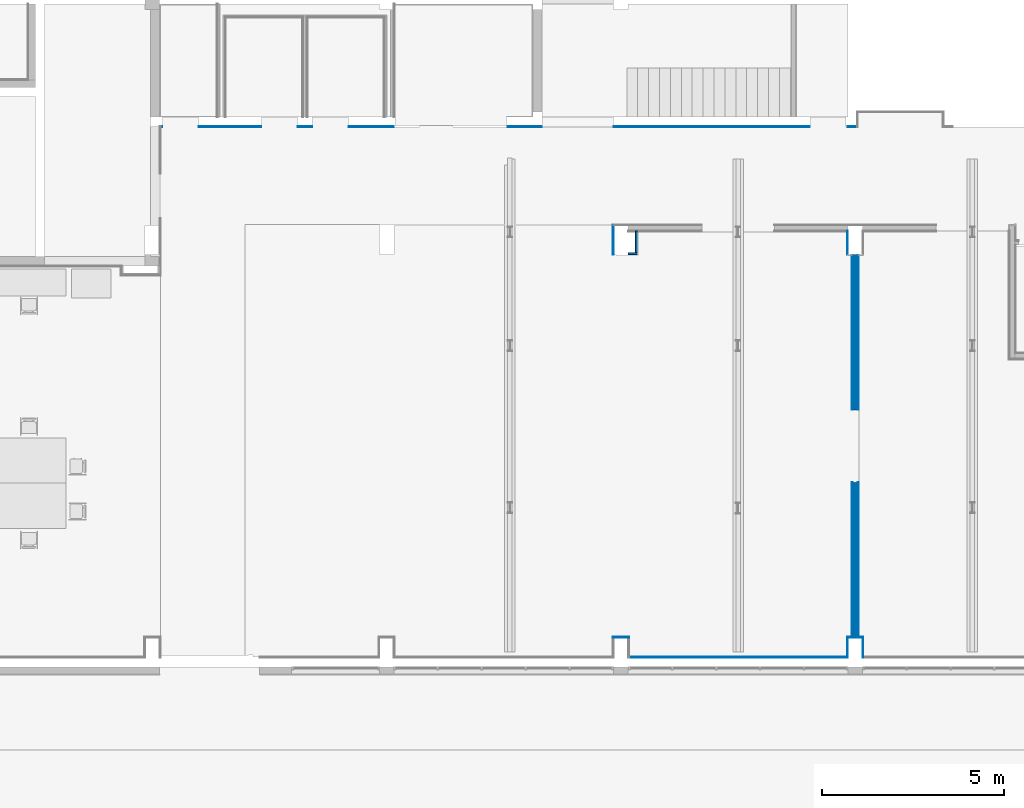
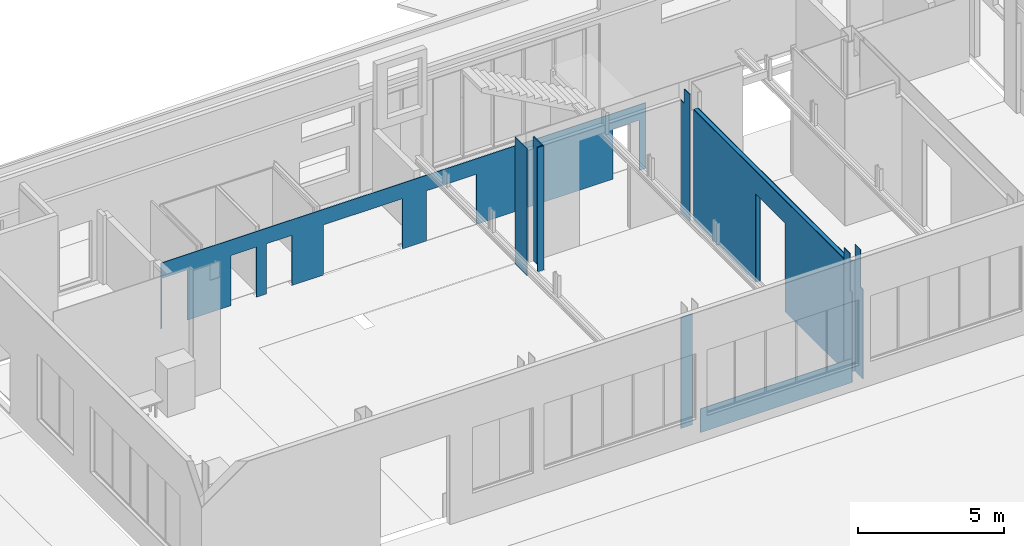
# One storey, part 13 of 27: 13 walls, 9 openings.
"""IFC2X3 building model written with IfcOpenShell, lengths in centimetres."""

from ifc_helpers import new_model, entity, si_unit, converted_unit, derived_unit, direction, frame, frame_2d, origin, origin_2d_with_axis, place, context, subcontext, project, spatial, polyline, rectangle, extrude, clip, bounded_halfspace, material, layer, layer_set, layer_usage, type_object, element, save


model = new_model("IFC2X3")

# Units and contexts
model_context = context("Model", 3, precision=0.001, world=origin(), true_north=direction((6.12303176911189e-17, 1.0)))
body_context = subcontext(model_context, "Body", "Model", "MODEL_VIEW")
ifc_project = project(units=[si_unit("LENGTHUNIT", "METRE", prefix="CENTI"), si_unit("AREAUNIT", "SQUARE_METRE"), si_unit("VOLUMEUNIT", "CUBIC_METRE"), converted_unit("PLANEANGLEUNIT", "DEGREE", entity("IfcRatioMeasure", 0.0174532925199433), si_unit("PLANEANGLEUNIT", "RADIAN"), dimensions=[0, 0, 0, 0, 0, 0, 0]), si_unit("MASSUNIT", "GRAM", prefix="KILO"), derived_unit("MASSDENSITYUNIT", [(si_unit("MASSUNIT", "GRAM", prefix="KILO"), 1), (si_unit("LENGTHUNIT", "METRE"), -3)]), derived_unit("MOMENTOFINERTIAUNIT", [(si_unit("LENGTHUNIT", "METRE"), 4)]), si_unit("TIMEUNIT", "SECOND"), si_unit("FREQUENCYUNIT", "HERTZ"), si_unit("THERMODYNAMICTEMPERATUREUNIT", "DEGREE_CELSIUS"), derived_unit("THERMALTRANSMITTANCEUNIT", [(si_unit("MASSUNIT", "GRAM", prefix="KILO"), 1), (si_unit("THERMODYNAMICTEMPERATUREUNIT", "KELVIN"), -1), (si_unit("TIMEUNIT", "SECOND"), -3)]), derived_unit("VOLUMETRICFLOWRATEUNIT", [(si_unit("LENGTHUNIT", "METRE"), 3), (si_unit("TIMEUNIT", "SECOND"), -1)]), si_unit("ELECTRICCURRENTUNIT", "AMPERE"), si_unit("ELECTRICVOLTAGEUNIT", "VOLT"), si_unit("POWERUNIT", "WATT"), si_unit("FORCEUNIT", "NEWTON", prefix="KILO"), si_unit("ILLUMINANCEUNIT", "LUX"), si_unit("LUMINOUSFLUXUNIT", "LUMEN"), si_unit("LUMINOUSINTENSITYUNIT", "CANDELA"), derived_unit("USERDEFINED", [(si_unit("MASSUNIT", "GRAM", prefix="KILO"), -1), (si_unit("LENGTHUNIT", "METRE"), -2), (si_unit("TIMEUNIT", "SECOND"), 3), (si_unit("LUMINOUSFLUXUNIT", "LUMEN"), 1)]), derived_unit("LINEARVELOCITYUNIT", [(si_unit("LENGTHUNIT", "METRE"), 1), (si_unit("TIMEUNIT", "SECOND"), -1)]), si_unit("PRESSUREUNIT", "PASCAL"), derived_unit("USERDEFINED", [(si_unit("LENGTHUNIT", "METRE"), -2), (si_unit("MASSUNIT", "GRAM", prefix="KILO"), 1), (si_unit("TIMEUNIT", "SECOND"), -2)]), derived_unit("LINEARFORCEUNIT", [(si_unit("MASSUNIT", "GRAM", prefix="KILO"), 1), (si_unit("LENGTHUNIT", "METRE"), 1), (si_unit("TIMEUNIT", "SECOND"), -2), (si_unit("LENGTHUNIT", "METRE"), -1)]), derived_unit("PLANARFORCEUNIT", [(si_unit("MASSUNIT", "GRAM", prefix="KILO"), 1), (si_unit("LENGTHUNIT", "METRE"), 1), (si_unit("TIMEUNIT", "SECOND"), -2), (si_unit("LENGTHUNIT", "METRE"), -2)])], contexts=[model_context])

# Site, building, storey
site_placement = place(None, origin())
site = spatial("IfcSite", under=ifc_project, at=site_placement, Name="Default", CompositionType="ELEMENT")
building_placement = place(site_placement, origin())
building = spatial("IfcBuilding", under=site, at=building_placement, CompositionType="ELEMENT")
storey_placement = place(building_placement, origin())
storey = spatial("IfcBuildingStorey", under=building, at=storey_placement, Name="Poziom 0 A +/-0,00", CompositionType="ELEMENT", Elevation=3.38570427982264e-11)

# Wall, opening
ifc_material_1 = material(Name="Wełna skalna")
ifc_layer_1 = layer(ifc_material_1, 15.0)
ifc_layer_set_1 = layer_set([ifc_layer_1], Name="Ściana podstawowa:Ściana GK rdzeń gr. 15cm")
ifc_layer_usage_1 = layer_usage(ifc_layer_set_1, "AXIS2", "NEGATIVE", 7.5)
wall_type_1 = type_object("IfcWallType", Name="Ściana podstawowa:Ściana GK rdzeń gr. 15cm", PredefinedType="STANDARD", material=ifc_layer_set_1)
wall_1_placement = place(storey_placement, frame((-334.265119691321, 335.127657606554, 0.0), z_axis=(0.0, 0.0, 1.0), x_axis=(0.0, 1.0, 0.0)))
wall_1 = element("IfcWallStandardCase", 1, at=wall_1_placement, inside=storey, type_object=wall_type_1, material=ifc_layer_usage_1, Name="Ściana podstawowa:Ściana GK rdzeń gr. 15cm", ObjectType="Ściana podstawowa:Ściana GK rdzeń gr. 15cm", context=body_context, shape_type="SweptSolid", body=[
    extrude(rectangle(XDim=1054.99979448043, YDim=15.0000000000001, at=frame_2d((527.499897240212, 0.0), x_axis=(-1.0, 0.0))), origin(), (0.0, 0.0, 1.0), 464.999999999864),
])
opening_1_placement = place(wall_1_placement, origin())
element("IfcOpeningElement", 2, at=opening_1_placement, cuts=wall_1, Name="Ściana podstawowa:Ściana GK rdzeń gr. 15cm", ObjectType="Opening", context=body_context, shape_type="SweptSolid", body=[
    extrude(rectangle(XDim=370.0, YDim=200.0, at=origin_2d_with_axis()), frame((527.499897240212, -144.9, 185.0), z_axis=(0.0, 1.0, 0.0), x_axis=(0.0, 0.0, -1.0)), (0.0, 0.0, 1.0), 304.8),
])

# Walls
ifc_layer_2 = layer(ifc_material_1, 5.0)
ifc_layer_set_2 = layer_set([ifc_layer_2], Name="Ściana podstawowa:Ściana GK rdzeń gr. 5cm")
ifc_layer_usage_2 = layer_usage(ifc_layer_set_2, "AXIS2", "NEGATIVE", 2.5)
wall_type_2 = type_object("IfcWallType", Name="Ściana podstawowa:Ściana GK rdzeń gr. 5cm", PredefinedType="STANDARD", material=ifc_layer_set_2)
wall_2_placement = place(storey_placement, frame((-959.265109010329, 1392.62745216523, 0.0)))
element("IfcWallStandardCase", 3, at=wall_2_placement, inside=storey, type_object=wall_type_2, material=ifc_layer_usage_2, Name="Ściana podstawowa:Ściana GK rdzeń gr. 5cm", ObjectType="Ściana podstawowa:Ściana GK rdzeń gr. 5cm", context=body_context, shape_type="SweptSolid", body=[
    extrude(rectangle(XDim=24.9999897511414, YDim=5.00000000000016, at=frame_2d((12.4999948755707, 0.0), x_axis=(-1.0, 0.0))), origin(), (0.0, 0.0, 1.0), 519.999999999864),
])
ifc_layer_usage_3 = layer_usage(ifc_layer_set_2, "AXIS2", "NEGATIVE", 2.5)
wall_3_placement = place(storey_placement, frame((-936.765119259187, 1395.12745216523, 0.0), z_axis=(0.0, 0.0, 1.0), x_axis=(0.0, 1.0, 0.0)))
element("IfcWallStandardCase", 4, at=wall_3_placement, inside=storey, type_object=wall_type_2, material=ifc_layer_usage_3, Name="Ściana podstawowa:Ściana GK rdzeń gr. 5cm", ObjectType="Ściana podstawowa:Ściana GK rdzeń gr. 5cm", context=body_context, shape_type="SweptSolid", body=[
    extrude(rectangle(XDim=59.9999999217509, YDim=4.99999999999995, at=frame_2d((29.9999999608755, 0.0), x_axis=(-1.0, 0.0))), origin(), (0.0, 0.0, 1.0), 519.999999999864),
])

# Wall, opening
ifc_material_2 = material(Name="Tynk gipsowy")
ifc_layer_3 = layer(ifc_material_2, 2.5)
ifc_layer_set_3 = layer_set([ifc_layer_3], Name="Ściana podstawowa:Ściana GK wykonczenie gr. 2,5cm")
ifc_layer_usage_4 = layer_usage(ifc_layer_set_3, "AXIS2", "NEGATIVE", 1.25)
wall_type_3 = type_object("IfcWallType", Name="Ściana podstawowa:Ściana GK wykonczenie gr. 2,5cm", PredefinedType="STANDARD", material=ifc_layer_set_3)
wall_4_placement = place(storey_placement, frame((-343.015119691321, 337.627452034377, 0.0), z_axis=(0.0, 0.0, 1.0), x_axis=(0.0, 1.0, 0.0)))
wall_4 = element("IfcWallStandardCase", 5, at=wall_4_placement, inside=storey, type_object=wall_type_3, material=ifc_layer_usage_4, Name="Ściana podstawowa:Ściana GK wykonczenie gr. 2,5cm", ObjectType="Ściana podstawowa:Ściana GK wykonczenie gr. 2,5cm", context=body_context, shape_type="Clipping", body=[
    clip(extrude(rectangle(XDim=1050.0000000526, YDim=2.49999999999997, at=frame_2d((525.000000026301, 0.0), x_axis=(-1.0, 0.0))), origin(), (0.0, 0.0, 1.0), 464.99999999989), bounded_halfspace(frame((0.0, -1.24999999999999, 465.0), z_axis=(0.0, 0.0, -1.0), x_axis=(1.0, 0.0, 0.0)), True, frame((0.0, -1.24999999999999, 465.0), z_axis=(0.0, 0.0, -1.0), x_axis=(1.0, 0.0, 0.0)), polyline([(0.0, 0.0), (0.0, -2.49999999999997), (1050.0, -2.49999999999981), (1050.0, 0.0), (0.0, 0.0)]))),
])
opening_2_placement = place(wall_4_placement, origin())
element("IfcOpeningElement", 6, at=opening_2_placement, cuts=wall_4, Name="Ściana podstawowa:Ściana GK wykonczenie gr. 2,5cm", ObjectType="Opening", context=body_context, shape_type="SweptSolid", body=[
    extrude(rectangle(XDim=370.0, YDim=200.0, at=origin_2d_with_axis()), frame((525.000102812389, -153.65, 185.0), z_axis=(0.0, 1.0, 0.0), x_axis=(0.0, 0.0, -1.0)), (0.0, 0.0, 1.0), 304.8),
])

ifc_layer_usage_5 = layer_usage(ifc_layer_set_3, "AXIS2", "NEGATIVE", 1.25)
wall_5_placement = place(storey_placement, frame((-325.515119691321, 337.627452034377, 0.0), z_axis=(0.0, 0.0, 1.0), x_axis=(0.0, 1.0, 0.0)))
wall_5 = element("IfcWallStandardCase", 7, at=wall_5_placement, inside=storey, type_object=wall_type_3, material=ifc_layer_usage_5, Name="Ściana podstawowa:Ściana GK wykonczenie gr. 2,5cm", ObjectType="Ściana podstawowa:Ściana GK wykonczenie gr. 2,5cm", context=body_context, shape_type="Clipping", body=[
    clip(extrude(rectangle(XDim=1050.0000000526, YDim=2.49999999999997, at=frame_2d((525.000000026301, 0.0), x_axis=(-1.0, 0.0))), origin(), (0.0, 0.0, 1.0), 464.99999999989), bounded_halfspace(frame((0.0, -1.25000000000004, 465.0), z_axis=(0.0, 0.0, -1.0), x_axis=(1.0, 0.0, 0.0)), True, frame((0.0, -1.25000000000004, 465.0), z_axis=(0.0, 0.0, -1.0), x_axis=(1.0, 0.0, 0.0)), polyline([(0.0, 0.0), (0.0, -2.50000000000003), (1050.0, -2.49999999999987), (1050.0, 0.0), (0.0, 0.0)]))),
])
opening_3_placement = place(wall_5_placement, origin())
element("IfcOpeningElement", 8, at=opening_3_placement, cuts=wall_5, Name="Ściana podstawowa:Ściana GK wykonczenie gr. 2,5cm", ObjectType="Opening", context=body_context, shape_type="SweptSolid", body=[
    extrude(rectangle(XDim=370.0, YDim=200.0, at=origin_2d_with_axis()), frame((525.000102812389, -136.15, 185.0), z_axis=(0.0, 1.0, 0.0), x_axis=(0.0, 0.0, -1.0)), (0.0, 0.0, 1.0), 304.8),
])

# Walls
ifc_layer_4 = layer(ifc_material_2, 2.5)
ifc_layer_set_4 = layer_set([ifc_layer_4], Name="Ściana podstawowa:Tynk wykończenie gr. 2,5cm")
ifc_layer_usage_6 = layer_usage(ifc_layer_set_4, "AXIS2", "NEGATIVE", 1.25)
wall_type_4 = type_object("IfcWallType", Name="Ściana podstawowa:Tynk wykończenie gr. 2,5cm", PredefinedType="STANDARD", material=ifc_layer_set_4)
wall_6_placement = place(storey_placement, frame((-1001.7651196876, 336.37745203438, 0.0)))
element("IfcWallStandardCase", 9, at=wall_6_placement, inside=storey, type_object=wall_type_4, material=ifc_layer_usage_6, Name="Ściana podstawowa:Tynk wykończenie gr. 2,5cm", ObjectType="Ściana podstawowa:Tynk wykończenie gr. 2,5cm", context=body_context, shape_type="SweptSolid", body=[
    extrude(rectangle(XDim=45.0000000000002, YDim=2.49999999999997, at=frame_2d((22.5000000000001, 0.0), x_axis=(-1.0, 0.0))), origin(), (0.0, 0.0, 1.0), 464.999999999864),
])
ifc_layer_usage_7 = layer_usage(ifc_layer_set_4, "AXIS2", "POSITIVE", -1.25)
wall_7_placement = place(storey_placement, frame((-956.765119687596, 281.377499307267, 0.0)))
element("IfcWallStandardCase", 10, at=wall_7_placement, inside=storey, type_object=wall_type_4, material=ifc_layer_usage_7, Name="Ściana podstawowa:Tynk wykończenie gr. 2,5cm", ObjectType="Ściana podstawowa:Tynk wykończenie gr. 2,5cm", context=body_context, shape_type="SweptSolid", body=[
    extrude(rectangle(XDim=599.999885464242, YDim=2.49999999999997, at=frame_2d((299.999942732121, 0.0), x_axis=(-1.0, 0.0))), origin(), (0.0, 0.0, 1.0), 100.0),
])
ifc_layer_usage_8 = layer_usage(ifc_layer_set_4, "AXIS2", "NEGATIVE", 1.25)
wall_8_placement = place(storey_placement, frame((-355.515234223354, 280.127499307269, 0.0), z_axis=(0.0, 0.0, 1.0), x_axis=(0.0, 1.0, 0.0)))
element("IfcWallStandardCase", 11, at=wall_8_placement, inside=storey, type_object=wall_type_4, material=ifc_layer_usage_8, Name="Ściana podstawowa:Tynk wykończenie gr. 2,5cm", ObjectType="Ściana podstawowa:Tynk wykończenie gr. 2,5cm", context=body_context, shape_type="Clipping", body=[
    clip(clip(extrude(rectangle(XDim=55.0001582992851, YDim=2.49999999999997, at=frame_2d((27.5000791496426, 0.0), x_axis=(-1.0, 0.0))), origin(), (0.0, 0.0, 1.0), 529.999999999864), bounded_halfspace(frame((14.99995276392, 1.25000000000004, 375.0), z_axis=(-1.0, 0.0, 0.0), x_axis=(0.0, 0.0, -1.0)), False, frame((14.99995276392, 1.25000000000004, 375.0), z_axis=(-1.0, 0.0, 0.0), x_axis=(0.0, 0.0, -1.0)), polyline([(0.0, 0.0), (0.0, 2.50000000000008), (-155.0, 2.50000000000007), (-155.0, 0.0), (0.0, 0.0)]))), bounded_halfspace(frame((14.99995276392, -1.25000000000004, 375.0), z_axis=(0.0, 0.0, 1.0), x_axis=(-1.0, 0.0, 0.0)), False, frame((14.99995276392, -1.25000000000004, 375.0), z_axis=(0.0, 0.0, 1.0), x_axis=(-1.0, 0.0, 0.0)), polyline([(0.0, 0.0), (0.0, -2.50000000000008), (14.99995276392, -2.49999999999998), (14.99995276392, 0.0), (0.0, 0.0)]))),
])
ifc_layer_usage_9 = layer_usage(ifc_layer_set_4, "AXIS2", "NEGATIVE", 1.25)
wall_9_placement = place(storey_placement, frame((-356.765234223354, 336.377452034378, 0.0)))
element("IfcWallStandardCase", 12, at=wall_9_placement, inside=storey, type_object=wall_type_4, material=ifc_layer_usage_9, Name="Ściana podstawowa:Tynk wykończenie gr. 2,5cm", ObjectType="Ściana podstawowa:Tynk wykończenie gr. 2,5cm", context=body_context, shape_type="SweptSolid", body=[
    extrude(rectangle(XDim=45.0000000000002, YDim=2.49999999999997, at=frame_2d((22.5000000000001, 0.0), x_axis=(-1.0, 0.0))), origin(), (0.0, 0.0, 1.0), 464.999999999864),
])
ifc_layer_usage_10 = layer_usage(ifc_layer_set_4, "AXIS2", "NEGATIVE", 1.25)
wall_10_placement = place(storey_placement, frame((-313.015234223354, 335.127657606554, 0.0), z_axis=(0.0, 0.0, 1.0), x_axis=(0.0, -1.0, 0.0)))
element("IfcWallStandardCase", 13, at=wall_10_placement, inside=storey, type_object=wall_type_4, material=ifc_layer_usage_10, Name="Ściana podstawowa:Tynk wykończenie gr. 2,5cm", ObjectType="Ściana podstawowa:Tynk wykończenie gr. 2,5cm", context=body_context, shape_type="Clipping", body=[
    clip(clip(extrude(rectangle(XDim=55.0001582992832, YDim=2.49999999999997, at=frame_2d((27.5000791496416, -2.33146835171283e-15), x_axis=(-1.0, 0.0))), origin(), (0.0, 0.0, 1.0), 529.999999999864), bounded_halfspace(frame((40.0002055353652, -1.25, 375.0), z_axis=(1.0, 0.0, 0.0), x_axis=(0.0, 0.0, -1.0)), False, frame((40.0002055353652, -1.25, 375.0), z_axis=(1.0, 0.0, 0.0), x_axis=(0.0, 0.0, -1.0)), polyline([(0.0, 0.0), (0.0, 2.50000000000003), (-155.0, 2.50000000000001), (-155.0, 0.0), (0.0, 0.0)]))), bounded_halfspace(frame((40.0002055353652, 1.25000000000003, 375.0)), False, frame((40.0002055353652, 1.25000000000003, 375.0)), polyline([(0.0, 0.0), (0.0, -2.50000000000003), (14.999952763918, -2.50000000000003), (14.999952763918, 0.0), (0.0, 0.0)]))),
])

# Wall, openings
ifc_layer_usage_11 = layer_usage(ifc_layer_set_4, "AXIS2", "POSITIVE", -1.25)
wall_11_placement = place(storey_placement, frame((-329.265111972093, 1741.87745200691, 0.0), z_axis=(0.0, 0.0, 1.0), x_axis=(-1.0, 0.0, 0.0)))
wall_11 = element("IfcWallStandardCase", 14, at=wall_11_placement, inside=storey, type_object=wall_type_4, material=ifc_layer_usage_11, Name="Ściana podstawowa:Tynk wykończenie gr. 2,5cm", ObjectType="Ściana podstawowa:Tynk wykończenie gr. 2,5cm", context=body_context, shape_type="SweptSolid", body=[
    extrude(rectangle(XDim=1917.50000775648, YDim=2.49999999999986, at=frame_2d((958.75000387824, 0.0), x_axis=(-1.0, 0.0))), origin(), (0.0, 0.0, 1.0), 275.000000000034),
])
opening_4_placement = place(wall_11_placement, origin())
element("IfcOpeningElement", 15, at=opening_4_placement, cuts=wall_11, Name="Ściana podstawowa:Tynk wykończenie gr. 2,5cm", ObjectType="Opening", context=body_context, shape_type="SweptSolid", body=[
    extrude(rectangle(XDim=210.0, YDim=313.0, at=frame_2d((0.0, 0.0), x_axis=(0.0, 1.0))), frame((1118.49999702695, -178.650000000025, 105.0), z_axis=(0.0, 1.0, 0.0), x_axis=(1.0, 0.0, 0.0)), (0.0, 0.0, 1.0), 304.8),
])
opening_5_placement = place(wall_11_placement, origin())
element("IfcOpeningElement", 16, at=opening_5_placement, cuts=wall_11, Name="Ściana podstawowa:Tynk wykończenie gr. 2,5cm", ObjectType="Opening", context=body_context, shape_type="SweptSolid", body=[
    extrude(rectangle(XDim=210.0, YDim=100.0, at=frame_2d((0.0, 0.0), x_axis=(0.0, 1.0))), frame((1589.9999636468, -178.650000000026, 105.0), z_axis=(0.0, 1.0, 0.0), x_axis=(1.0, 0.0, 0.0)), (0.0, 0.0, 1.0), 304.8),
])
opening_6_placement = place(wall_11_placement, origin())
element("IfcOpeningElement", 17, at=opening_6_placement, cuts=wall_11, Name="Ściana podstawowa:Tynk wykończenie gr. 2,5cm", ObjectType="Opening", context=body_context, shape_type="SweptSolid", body=[
    extrude(rectangle(XDim=210.0, YDim=99.9999999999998, at=frame_2d((1.10134124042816e-13, 0.0), x_axis=(0.0, 1.0))), frame((1449.99996376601, -178.650000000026, 105.0), z_axis=(0.0, 1.0, 0.0), x_axis=(1.0, 0.0, 0.0)), (0.0, 0.0, 1.0), 304.8),
])
opening_7_placement = place(wall_11_placement, origin())
element("IfcOpeningElement", 18, at=opening_7_placement, cuts=wall_11, Name="Ściana podstawowa:Tynk wykończenie gr. 2,5cm", ObjectType="Opening", context=body_context, shape_type="SweptSolid", body=[
    extrude(rectangle(XDim=210.0, YDim=100.0, at=frame_2d((0.0, 0.0), x_axis=(0.0, 1.0))), frame((1862.49998093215, -178.650000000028, 105.0), z_axis=(0.0, 1.0, 0.0), x_axis=(1.0, 0.0, 0.0)), (0.0, 0.0, 1.0), 304.8),
])
opening_8_placement = place(wall_11_placement, origin())
element("IfcOpeningElement", 19, at=opening_8_placement, cuts=wall_11, Name="Ściana podstawowa:Tynk wykończenie gr. 2,5cm", ObjectType="Opening", context=body_context, shape_type="SweptSolid", body=[
    extrude(rectangle(XDim=210.0, YDim=197.5, at=frame_2d((1.06581410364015e-13, 0.0), x_axis=(0.0, 1.0))), frame((768.749976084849, -178.64999994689, 105.0), z_axis=(0.0, 1.0, 0.0), x_axis=(1.0, 0.0, 0.0)), (0.0, 0.0, 1.0), 304.8),
])
opening_9_placement = place(wall_11_placement, origin())
element("IfcOpeningElement", 20, at=opening_9_placement, cuts=wall_11, Name="Ściana podstawowa:Tynk wykończenie gr. 2,5cm", ObjectType="Opening", context=body_context, shape_type="SweptSolid", body=[
    extrude(rectangle(XDim=210.0, YDim=105.0, at=frame_2d((2.48689957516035e-14, 0.0), x_axis=(0.0, 1.0))), frame((77.4999796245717, -178.649999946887, 105.0), z_axis=(0.0, 1.0, 0.0), x_axis=(1.0, 0.0, 0.0)), (0.0, 0.0, 1.0), 304.8),
])

# Walls
ifc_layer_usage_12 = layer_usage(ifc_layer_set_4, "AXIS2", "POSITIVE", -1.25)
wall_12_placement = place(storey_placement, frame((-1000.5151196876, 1390.12745208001, 0.0), z_axis=(0.0, 0.0, 1.0), x_axis=(0.0, 1.0, 0.0)))
element("IfcWallStandardCase", 21, at=wall_12_placement, inside=storey, type_object=wall_type_4, material=ifc_layer_usage_12, Name="Ściana podstawowa:Tynk wykończenie gr. 2,5cm", ObjectType="Ściana podstawowa:Tynk wykończenie gr. 2,5cm", context=body_context, shape_type="SweptSolid", body=[
    extrude(rectangle(XDim=82.5000000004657, YDim=2.49999999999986, at=frame_2d((41.2500000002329, 0.0), x_axis=(-1.0, 0.0))), origin(), (0.0, 0.0, 1.0), 529.999999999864),
])
ifc_layer_usage_13 = layer_usage(ifc_layer_set_4, "AXIS2", "POSITIVE", -1.25)
wall_13_placement = place(storey_placement, frame((-355.515109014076, 1390.12745208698, 0.0), z_axis=(0.0, 0.0, 1.0), x_axis=(0.0, 1.0, 0.0)))
element("IfcWallStandardCase", 22, at=wall_13_placement, inside=storey, type_object=wall_type_4, material=ifc_layer_usage_13, Name="Ściana podstawowa:Tynk wykończenie gr. 2,5cm", ObjectType="Ściana podstawowa:Tynk wykończenie gr. 2,5cm", context=body_context, shape_type="Clipping", body=[
    clip(clip(extrude(rectangle(XDim=65.0000000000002, YDim=2.49999999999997, at=frame_2d((32.5000000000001, 4.10782519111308e-15), x_axis=(-1.0, 0.0))), origin(), (0.0, 0.0, 1.0), 529.999999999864), bounded_halfspace(frame((40.0, 1.25, 470.0), z_axis=(0.0, 0.0, 1.0), x_axis=(-1.0, 0.0, 0.0)), False, frame((40.0, 1.25, 470.0), z_axis=(0.0, 0.0, 1.0), x_axis=(-1.0, 0.0, 0.0)), polyline([(0.0, 0.0), (0.0, 2.50000000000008), (-25.0, 2.5), (-25.0, 0.0), (0.0, 0.0)]))), bounded_halfspace(frame((40.0, -1.25000000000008, 470.0), z_axis=(1.0, 0.0, 0.0), x_axis=(0.0, 0.0, 1.0)), False, frame((40.0, -1.25000000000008, 470.0), z_axis=(1.0, 0.0, 0.0), x_axis=(0.0, 0.0, 1.0)), polyline([(0.0, 0.0), (0.0, -2.50000000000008), (60.0, -2.50000000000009), (60.0, 0.0), (0.0, 0.0)]))),
])

save(model, "model.ifc")
